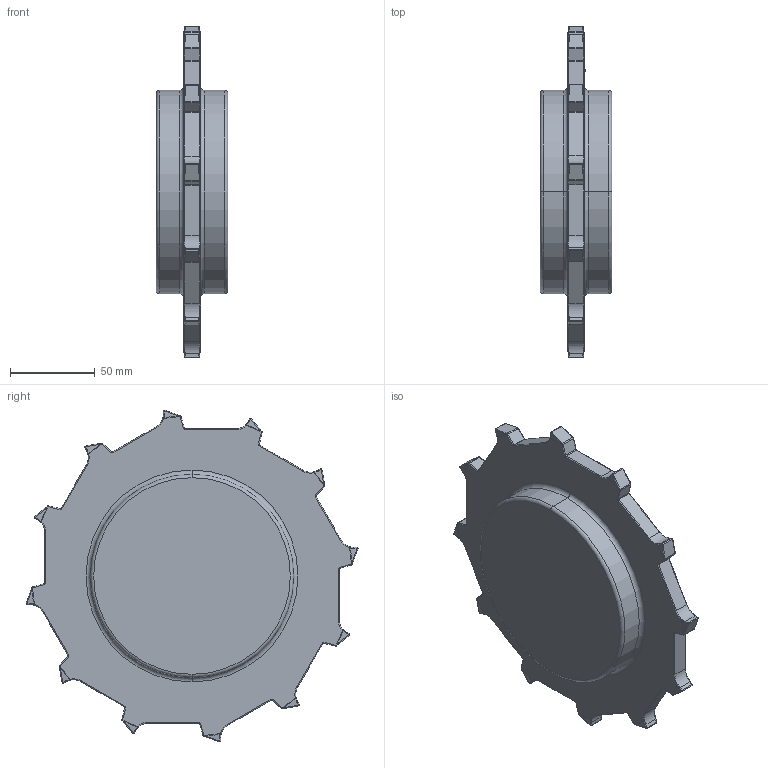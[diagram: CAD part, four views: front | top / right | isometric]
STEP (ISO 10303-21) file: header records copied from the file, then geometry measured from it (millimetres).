
FILE_DESCRIPTION((''),'2;1');
FILE_NAME('18Z12BB','2011-12-22T',('mth'),(''),'PRO/ENGINEER BY PARAMETRIC TECHNOLOGY CORPORATION, 2010280','PRO/ENGINEER BY PARAMETRIC TECHNOLOGY CORPORATION, 2010280','');
FILE_SCHEMA(('CONFIG_CONTROL_DESIGN','SHAPE_APPEARANCE_LAYERS_GROUPS'));
Length unit declared in the file: millimetre
Products named in the file (1): 18Z12BB
Bounding box: 42.3 x 195.84 x 195.84 mm (x, y, z)
Volume: 615244.6 mm3; surface area: 68927.5 mm2
Topology: 1 solids, 1 shells, 875 faces, 2209 edges, 1365 vertices
Faces by surface type: plane 465, bspline 155, cylinder 112, torus 93, cone 26, sphere 24
Entity records: 36066 total; most frequent: CARTESIAN_POINT 9320, ORIENTED_EDGE 4414, DIRECTION 3841, PRESENTATION_STYLE_ASSIGNMENT 2208, STYLED_ITEM 2208, CURVE_STYLE 2207, EDGE_CURVE 2207, VECTOR 1389
